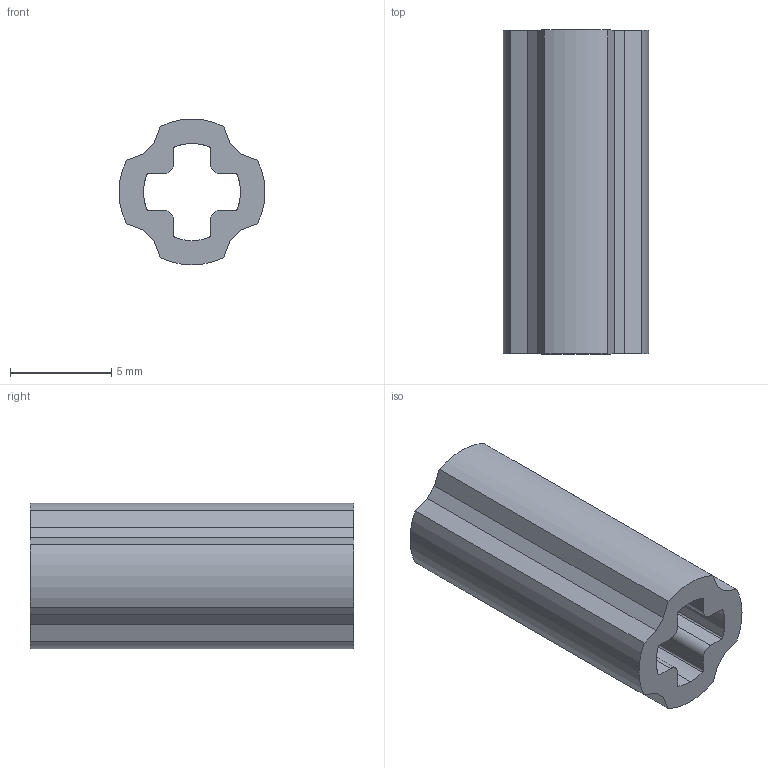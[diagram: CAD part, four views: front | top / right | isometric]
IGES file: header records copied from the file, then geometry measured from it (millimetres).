
Start section: C
Global section: file name: Gray_4516546_JCA.iges; native system: By Siemens PLM Incorporated; preprocessor: XPlus GENERIC/IGES 26.1.183; author: Author; organization: Title; date: 20250721.235928; units: millimetre
Bounding box: 7.2 x 16 x 7.2 mm (x, y, z)
Surface area: 687.1 mm2 (no closed solid volume)
Topology: 0 solids, 0 shells, 44 faces, 252 edges, 252 vertices
Faces by surface type: bspline 44
